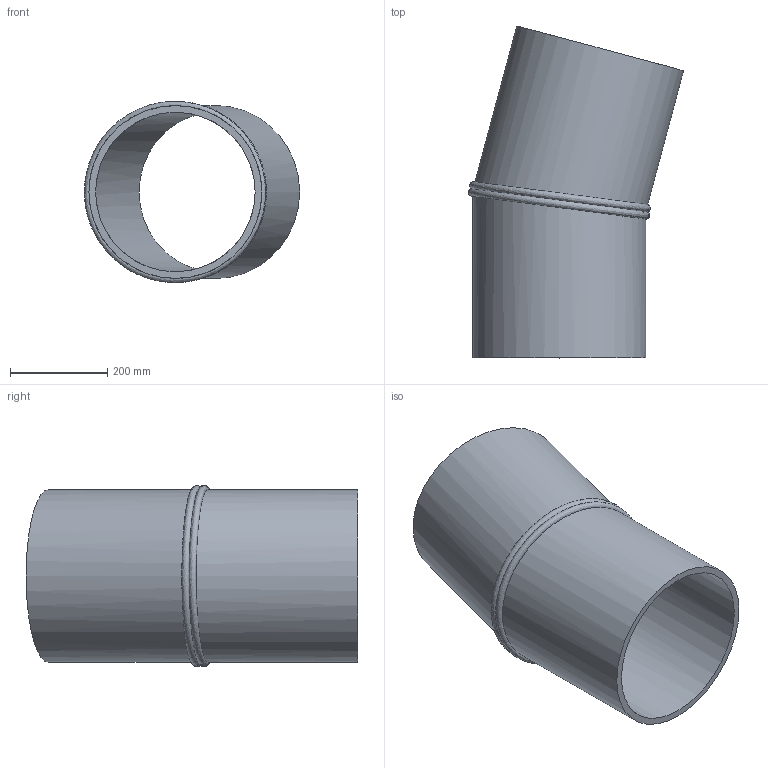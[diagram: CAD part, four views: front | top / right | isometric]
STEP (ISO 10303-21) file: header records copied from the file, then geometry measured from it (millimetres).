
FILE_DESCRIPTION(/* description */ ('Unknown'),/* implementation_level */ '2;1');
FILE_NAME(/* name */ 'Curva 15° a settore DE355 SDR26',/* time_stamp */ '2022-07-25T11:38:07+02:00',/* author */ ('Unknown'),/* organization */ ('Unknown'),/* preprocessor_version */ 'ST-DEVELOPER v18.102',/* originating_system */ 'Solid Edge',/* authorisation */ 'Unknown');
FILE_SCHEMA (('AUTOMOTIVE_DESIGN {1 0 10303 214 3 1 1}'));
Length unit declared in the file: millimetre
Products named in the file (2): Curva 15° a settore DE355 SDR26; Tubo x Gomito 15° DE355 SDR26
Assembly tree (2 placements, depth 2):
  Curva 15° a settore DE355 SDR26
    Tubo x Gomito 15° DE355 SDR26  x2
Bounding box: 442.03 x 681.66 x 371.95 mm (x, y, z)
Volume: 9668176.4 mm3; surface area: 1471600.5 mm2
Topology: 2 solids, 2 shells, 10 faces, 20 edges, 14 vertices
Faces by surface type: cylinder 4, plane 4, bspline 2
Full cylindrical faces by diameter (mm): 327.8 x2, 355 x2
Entity records: 759 total; most frequent: CARTESIAN_POINT 622, DIRECTION 20, ORIENTED_EDGE 10, EDGE_LOOP 10, FACE_BOUND 10, AXIS2_PLACEMENT_3D 10, EDGE_CURVE 5, VERTEX_POINT 5
